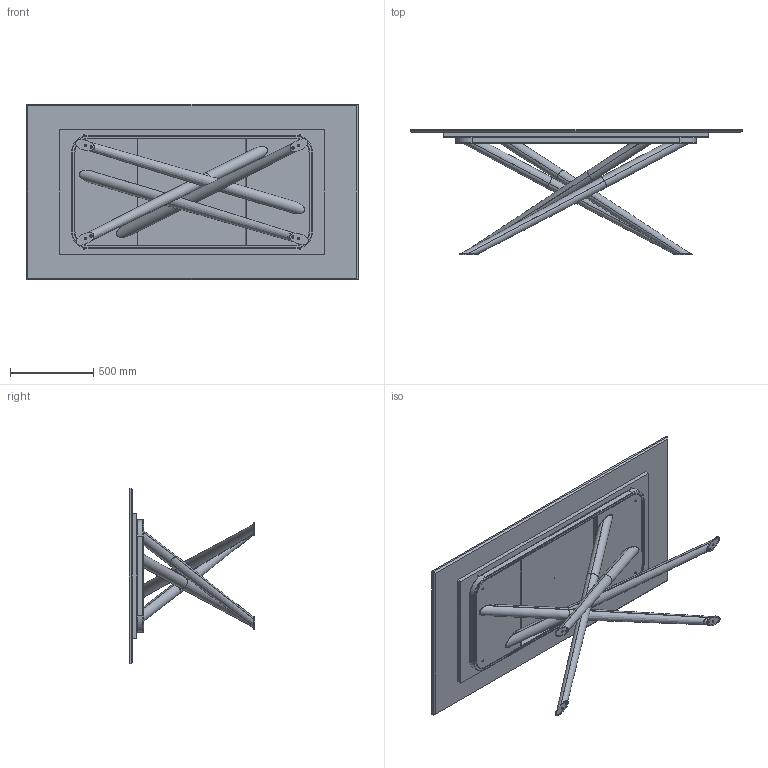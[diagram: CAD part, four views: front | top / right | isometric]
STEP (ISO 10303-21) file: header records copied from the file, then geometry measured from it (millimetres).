
FILE_DESCRIPTION (( 'STEP AP203' ), '1' );
FILE_NAME ('BA21M.STEP', '2024-08-08T06:17:33', ( '' ), ( '' ), 'SwSTEP 2.0', 'SolidWorks 2022', '' );
FILE_SCHEMA (( 'CONFIG_CONTROL_DESIGN' ));
Length unit declared in the file: millimetre
Products named in the file (10): M2XMXX-00-Piani rettangolari in marmo_2000x1060; BAB100000_01-00-Gambe saldate BALY 240_Default<A macchina>; TRUXXXXXX-00-NOBILITATO GR CON SUPP TRUCIOLARE SP. 25_TRU00004_1600x720; M2X-00-Piani rettangolari marmo_2000*1060; BAB100000-00-BALY BASE GREZZA L240 rettangolare; TR Fastenings Ltd-M6_M6; M6xXXmm_HEX_M6x30mm HEX; BAB100000_03-00-Telaio BALY L240_Default<A macchina>; BA21M; BAB100000_02-00-piede per baly 240
Assembly tree (20 placements, depth 3):
  BA21M
    M2XMXX-00-Piani rettangolari in marmo_2000x1060
      M2X-00-Piani rettangolari marmo_2000*1060
      TRUXXXXXX-00-NOBILITATO GR CON SUPP TRUCIOLARE SP. 25_TRU00004_1600x720
    BAB100000-00-BALY BASE GREZZA L240 rettangolare
      BAB100000_01-00-Gambe saldate BALY 240_Default<A macchina>
      BAB100000_03-00-Telaio BALY L240_Default<A macchina>
      BAB100000_02-00-piede per baly 240  x4
      TR Fastenings Ltd-M6_M6  x2
      M6xXXmm_HEX_M6x30mm HEX  x8
Bounding box: 2000 x 754 x 1060 mm (x, y, z)
Volume: 77882806.7 mm3; surface area: 11079427.9 mm2
Topology: 28 solids, 28 shells, 714 faces, 1514 edges, 831 vertices
Faces by surface type: plane 300, cylinder 214, cone 134, torus 48, bspline 18
Entity records: 12752 total; most frequent: CARTESIAN_POINT 2169, DIRECTION 2074, ORIENTED_EDGE 1788, EDGE_CURVE 894, AXIS2_PLACEMENT_3D 803, VERTEX_POINT 522, EDGE_LOOP 490, LINE 468
